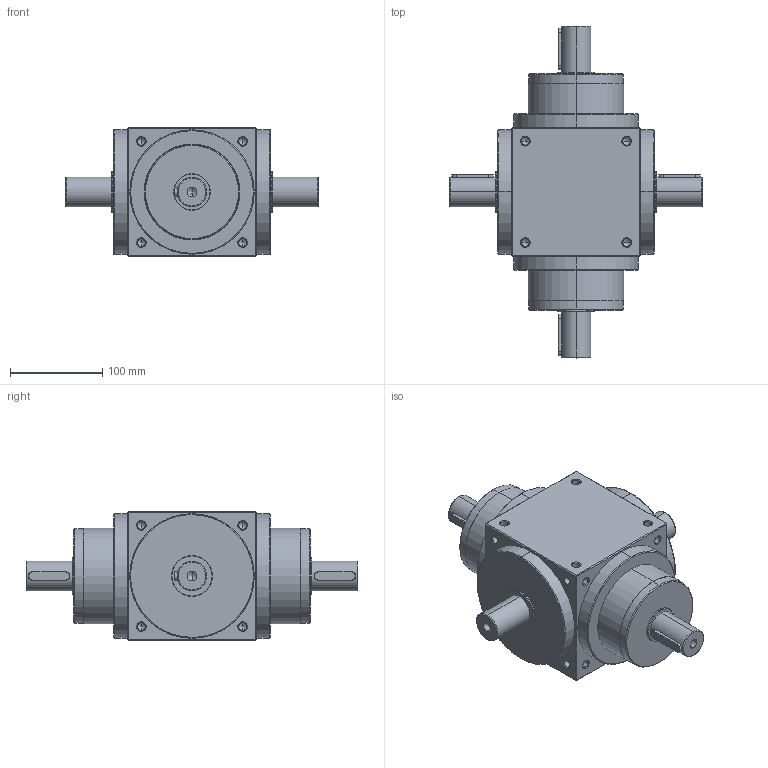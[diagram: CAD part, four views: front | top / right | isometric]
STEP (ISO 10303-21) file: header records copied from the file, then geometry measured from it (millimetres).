
FILE_DESCRIPTION (( 'STEP AP214' ), '1' );
FILE_NAME ('AT140-L-001.STEP', '2020-11-12T03:09:03', ( '微软用户' ), ( '微软中国' ), 'SwSTEP 2.0', 'SolidWorks 2014', '' );
FILE_SCHEMA (( 'AUTOMOTIVE_DESIGN' ));
Length unit declared in the file: millimetre
Products named in the file (2): AT140-L-001
Bounding box: 274 x 360 x 140 mm (x, y, z)
Volume: 4468060.9 mm3; surface area: 234140.6 mm2
Topology: 2 solids, 2 shells, 347 faces, 864 edges, 480 vertices
Faces by surface type: cylinder 144, cone 128, plane 63, bspline 12
Entity records: 13630 total; most frequent: CARTESIAN_POINT 2613, ORIENTED_EDGE 1616, DIRECTION 1570, EDGE_CURVE 808, AXIS2_PLACEMENT_3D 605, VERTEX_POINT 480, EDGE_LOOP 394, LINE 360
